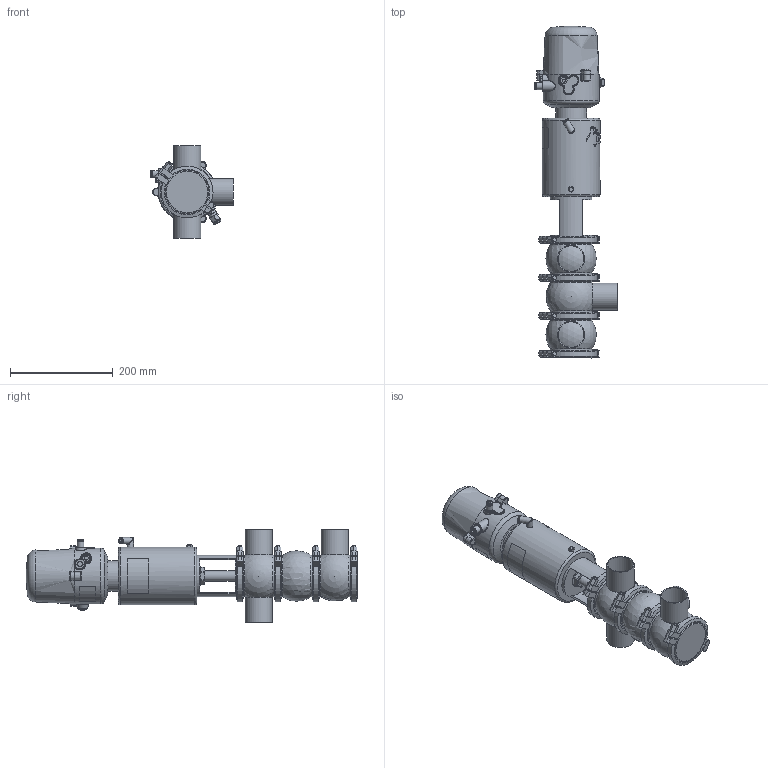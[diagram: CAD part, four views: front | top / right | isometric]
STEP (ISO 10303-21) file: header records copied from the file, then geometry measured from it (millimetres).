
FILE_DESCRIPTION (( 'STEP AP214' ), '1' );
FILE_NAME ('INNOVA L P W DIN 050 T2 AS NC & C-TOP S_10.241.16.0052.STEP', '2024-08-06T12:59:13', ( '' ), ( '' ), 'SwSTEP 2.0', 'SolidWorks 2023', '' );
FILE_SCHEMA (( 'AUTOMOTIVE_DESIGN' ));
Length unit declared in the file: millimetre
Products named in the file (9): 10.240.15.0001_DN 050; 10.240.15.0017_Estàndard; 10.240.15.0010_DN 050; 10.240.15.0006_DIN 050; 10.426.15.0001_C-TOP S - 1 EV; 10.240.15.0014_T2 AS P180; 10.241.15.0001_DIN 050; INNOVA L P W DIN 050 T2 AS NC & C-TOP S_10.241.16.0052; 10.240.15.0007_DIN 050
Assembly tree (12 placements, depth 2):
  INNOVA L P W DIN 050 T2 AS NC & C-TOP S_10.241.16.0052
    10.240.15.0007_DIN 050
    10.240.15.0006_DIN 050  x2
    10.240.15.0010_DN 050
    10.240.15.0014_T2 AS P180
    10.240.15.0017_Estàndard
    10.426.15.0001_C-TOP S - 1 EV
    10.240.15.0001_DN 050  x4
    10.241.15.0001_DIN 050
Bounding box: 161 x 646.27 x 180 mm (x, y, z)
Volume: 4755672.7 mm3; surface area: 467928.9 mm2
Topology: 13 solids, 13 shells, 1311 faces, 3193 edges, 2118 vertices
Faces by surface type: plane 478, cylinder 405, cone 221, bspline 160, torus 36, sphere 11
Full cylindrical faces by diameter (mm): 0.371 x17, 0.512 x16, 0.658 x16, 0.795 x16, 0.94 x15, 1.098 x15, 1.241 x13, 1.382 x13, 1.523 x11, 1.669 x10, 2.201 x1, 4 x2, 5.5 x2, 6 x2, 6.15 x1, 8 x10, 8.5 x1, 10 x1, 10.5 x1, 11 x2, 12.5 x3, 13 x2, 13.5 x2, 16 x1, 17 x3, 20 x3, 20.5 x1, 22 x2, 31 x1, 34.5 x3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
Entity records: 58112 total; most frequent: CARTESIAN_POINT 27766, ORIENTED_EDGE 4516, DIRECTION 3677, EDGE_CURVE 2258, VERTEX_POINT 1609, EDGE_LOOP 1579, AXIS2_PLACEMENT_3D 1510, FACE_OUTER_BOUND 1339
